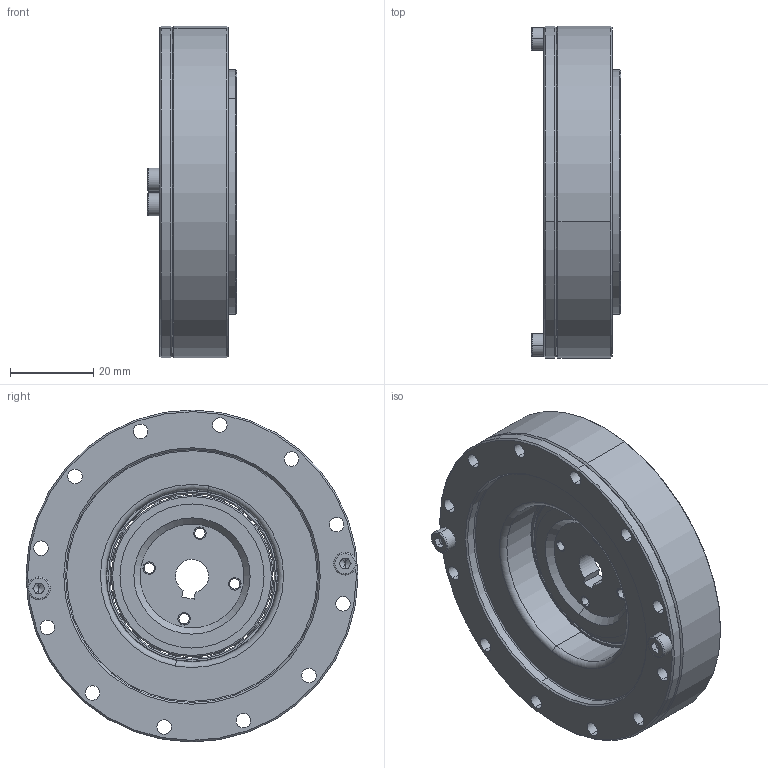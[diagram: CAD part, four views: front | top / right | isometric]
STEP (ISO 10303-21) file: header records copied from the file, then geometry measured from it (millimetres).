
FILE_DESCRIPTION((''),'2;1');
FILE_NAME('LHD-17-XXX-C-I_ASM','2019-10-16T',('Administrator'),(''),'PRO/ENGINEER BY PARAMETRIC TECHNOLOGY CORPORATION, 2014200','PRO/ENGINEER BY PARAMETRIC TECHNOLOGY CORPORATION, 2014200','');
FILE_SCHEMA(('AUTOMOTIVE_DESIGN { 1 0 10303 214 1 1 1 1 }'));
Length unit declared in the file: millimetre
Products named in the file (10): RZC内外圈_钢珠; 悵厥殤; LHD-17-XXX-P01; LHD-17-XXX-P04; YF-17; DIN_912_M3_X_6_---_6C; LHD-17-XXX-P02; DIN_912_M2_X_6_---_6C; PRT0137; LHD-17-XXX-C-I_ASM
Assembly tree (15 placements, depth 2):
  LHD-17-XXX-C-I_ASM
    RZC内外圈_钢珠
    悵厥殤
    LHD-17-XXX-P01
    LHD-17-XXX-P04
    YF-17
    DIN_912_M3_X_6_---_6C  x2
    LHD-17-XXX-P02
    DIN_912_M2_X_6_---_6C  x6
    PRT0137
Bounding box: 21.5 x 80 x 80 mm (x, y, z)
Volume: 54604.4 mm3; surface area: 52479.2 mm2
Topology: 16 solids, 21 shells, 769 faces, 2004 edges, 1184 vertices
Faces by surface type: cylinder 327, plane 214, cone 110, torus 72, sphere 46
Entity records: 21024 total; most frequent: CARTESIAN_POINT 4913, DIRECTION 3636, ORIENTED_EDGE 3024, AXIS2_PLACEMENT_3D 1572, EDGE_CURVE 1520, VERTEX_POINT 986, CIRCLE 936, EDGE_LOOP 772
